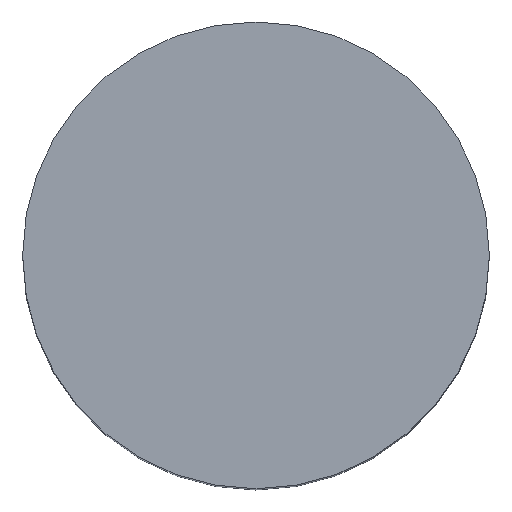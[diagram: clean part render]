
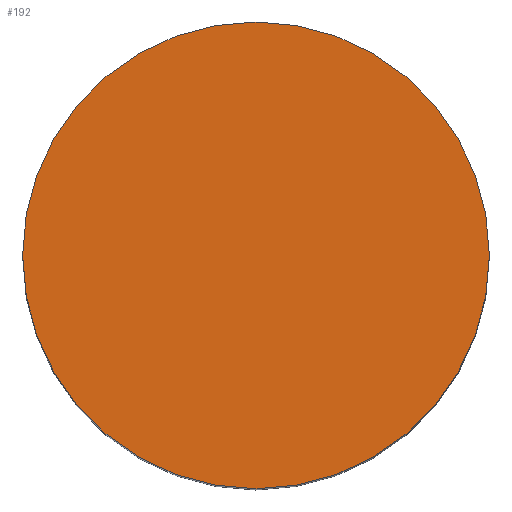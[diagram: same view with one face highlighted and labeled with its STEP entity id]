
A CAD part, top view. The second image highlights one B-rep face of the part: STEP entity #192.
In plain terms, the highlighted planar face has unit normal (0, 0, 1).
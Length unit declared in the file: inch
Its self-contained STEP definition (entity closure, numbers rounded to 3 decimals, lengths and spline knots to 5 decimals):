
#1 = DIRECTION('',(0.,0.,1.));
#2 = DIRECTION('',(1.,0.,0.));
#102 = CARTESIAN_POINT('',(8.,0.,25.));
#104 = CARTESIAN_POINT('',(0.,0.,25.));
#111 = AXIS2_PLACEMENT_3D('',#104,#1,#2);
#113 = AXIS2_PLACEMENT_3D('',#104,#1,#2);
#121 = CIRCLE('',#111,8.);
#142 = PLANE('',#113);
#151 = VERTEX_POINT('',#102);
#161 = EDGE_CURVE('',#151,#151,#121,.T.);
#1901 = ORIENTED_EDGE('',*,*,#161,.T.);
#190 = EDGE_LOOP('',(#1901));
#191 = FACE_OUTER_BOUND('',#190,.T.);
#192 = ADVANCED_FACE('top',(#191),#142,.T.);
